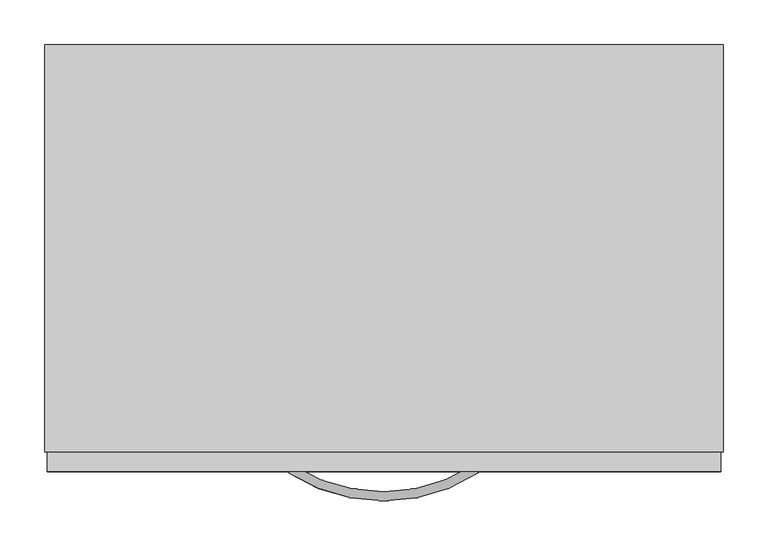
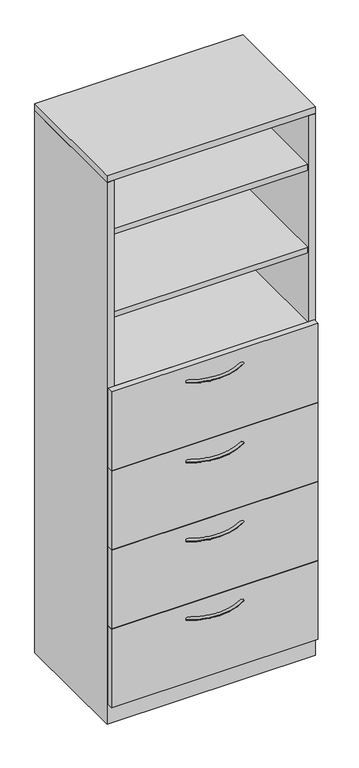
"""IFC4 building model written with IfcOpenShell, lengths in millimetres: furniture geometry, Steelcase - Universal Storage - Cabinet - Combination - Proud Steel : 83 1/2H - Open Cabinet/4 Drawers - 18 7/8D x 30W."""

from ifc_helpers import new_model, si_unit, point, frame, origin, place, context, project, spatial, polyline, circle_curve, ellipse_curve, trimmed, outline, extrude, faceted_brep, source, transform, mapped, element, save
from ifc_brep_helpers import plane_surface, revolved_surface, advanced_brep


def furniture_8e147174(model_context):
    return source(origin(), model_context, "Body", "SolidModel", [
        extrude(outline(polyline([(736.6000242, -25.4000008), (736.6000242, -454.0250121), (25.4000008, -454.0250121), (25.4000008, -25.4000008), (736.6000242, -25.4000008)])), frame((0.0, 0.0, 1273.1750484), z_axis=(0.0, 0.0, 1.0), x_axis=(1.0, 0.0, 0.0)), (0.0, 0.0, 1.0), 22.2249516),
        extrude(outline(polyline([(736.6000242, -25.4000008), (736.6000242, -454.0250121), (25.4000008, -454.0250121), (25.4000008, -25.4000008), (736.6000242, -25.4000008)])), frame((0.0, 0.0, 1562.7350484), z_axis=(0.0, 0.0, 1.0), x_axis=(1.0, 0.0, 0.0)), (0.0, 0.0, 1.0), 22.2249516),
        extrude(outline(polyline([(736.6000242, -25.4000008), (736.6000242, -454.0250121), (25.4000008, -454.0250121), (25.4000008, -25.4000008), (736.6000242, -25.4000008)])), frame((0.0, 0.0, 1882.7750484), z_axis=(0.0, 0.0, 1.0), x_axis=(1.0, 0.0, 0.0)), (0.0, 0.0, 1.0), 22.2249516),
        advanced_brep(
        [(274.4245932, -481.5705994, 1240.6312742), (279.8977519, -473.0108019, 1240.6312742), (486.7315136, -481.1337636, 1240.6312742), (481.2231767, -472.5965612, 1240.6312742)],
        [
            (0, 1, circle_curve(frame((277.1611726, -477.2907007, 1240.6312742), z_axis=(-0.8424997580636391, 0.5386967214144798, 0.0), x_axis=(0.5386967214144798, 0.8424997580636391, 0.0)), 5.08)),
            (1, 0, circle_curve(frame((277.1611726, -477.2907007, 1240.6312742), z_axis=(-0.8424997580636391, 0.5386967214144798, 0.0), x_axis=(0.5386967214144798, 0.8424997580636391, 0.0)), 5.08)),
            (2, 3, circle_curve(frame((483.9773452, -476.8651624, 1240.6312742), z_axis=(0.8402758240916, 0.5421591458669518, 0.0), x_axis=(-0.5421591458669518, 0.8402758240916, 0.0)), 5.08)),
            (3, 2, circle_curve(frame((483.9773452, -476.8651624, 1240.6312742), z_axis=(0.8402758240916, 0.5421591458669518, 0.0), x_axis=(-0.5421591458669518, 0.8402758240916, 0.0)), 5.08)),
            (3, 1, circle_curve(frame((380.2380004, -316.0827352, 1240.6312742), z_axis=(0.0, 0.0, -1.0), x_axis=(-0.5386967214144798, -0.8424997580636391, 0.0)), 186.2648211)),
            (0, 2, circle_curve(frame((380.2380004, -316.0827352, 1240.6312742), z_axis=(0.0, 0.0, 1.0), x_axis=(-0.5386967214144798, -0.8424997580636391, 0.0)), 196.4248211)),
        ],
        [
            plane_surface(frame((277.5794521, -476.6365286, 1241.4250242), z_axis=(-0.8424997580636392, 0.5386967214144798, 0.0), x_axis=(0.0, 0.0, 1.0))),
            plane_surface(frame((483.5563772, -476.2127171, 1241.4250242), z_axis=(0.8402758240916, 0.5421591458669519, 0.0), x_axis=(0.0, 0.0, 1.0))),
            revolved_surface(trimmed(ellipse_curve(frame((277.1611726, -477.2907007, 1240.6312742), z_axis=(-0.8424997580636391, 0.5386967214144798, 0.0), x_axis=(0.5386967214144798, 0.8424997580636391, 0.0)), 5.08, 5.08), [point((274.4245932, -481.5705994, 1240.6312742))], [point((279.8977519, -473.0108019, 1240.6312742))], True, "CARTESIAN"), (380.2380004, -316.0827352, 1241.4250242), (0.0, 0.0, 1.0)),
            revolved_surface(trimmed(ellipse_curve(frame((277.1611726, -477.2907007, 1240.6312742), z_axis=(-0.8424997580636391, 0.5386967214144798, 0.0), x_axis=(0.5386967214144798, 0.8424997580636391, 0.0)), 5.08, 5.08), [point((279.8977519, -473.0108019, 1240.6312742))], [point((274.4245932, -481.5705994, 1240.6312742))], True, "CARTESIAN"), (380.2380004, -316.0827352, 1241.4250242), (0.0, 0.0, 1.0)),
        ],
        [
            (0, [[1, 2]]),
            (1, [[3, 4]]),
            (2, [[5, -1, 6, -4]]),
            (3, [[-6, -2, -5, -3]]),
        ],
    ),
        advanced_brep(
        [(274.4245932, -481.5705994, 323.56425), (279.8977519, -473.0108019, 323.56425), (486.7315136, -481.1337636, 323.56425), (481.2231767, -472.5965612, 323.56425)],
        [
            (0, 1, circle_curve(frame((277.1611726, -477.2907007, 323.56425), z_axis=(-0.8424997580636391, 0.5386967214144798, 0.0), x_axis=(0.5386967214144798, 0.8424997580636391, 0.0)), 5.08)),
            (1, 0, circle_curve(frame((277.1611726, -477.2907007, 323.56425), z_axis=(-0.8424997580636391, 0.5386967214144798, 0.0), x_axis=(0.5386967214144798, 0.8424997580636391, 0.0)), 5.08)),
            (2, 3, circle_curve(frame((483.9773452, -476.8651624, 323.56425), z_axis=(0.8402758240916, 0.5421591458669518, 0.0), x_axis=(-0.5421591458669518, 0.8402758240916, 0.0)), 5.08)),
            (3, 2, circle_curve(frame((483.9773452, -476.8651624, 323.56425), z_axis=(0.8402758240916, 0.5421591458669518, 0.0), x_axis=(-0.5421591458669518, 0.8402758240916, 0.0)), 5.08)),
            (3, 1, circle_curve(frame((380.2380004, -316.0827352, 323.56425), z_axis=(0.0, 0.0, -1.0), x_axis=(-0.5386967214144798, -0.8424997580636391, 0.0)), 186.2648211)),
            (0, 2, circle_curve(frame((380.2380004, -316.0827352, 323.56425), z_axis=(0.0, 0.0, 1.0), x_axis=(-0.5386967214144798, -0.8424997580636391, 0.0)), 196.4248211)),
        ],
        [
            plane_surface(frame((277.5794521, -476.6365286, 324.358), z_axis=(-0.8424997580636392, 0.5386967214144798, 0.0), x_axis=(0.0, 0.0, 1.0))),
            plane_surface(frame((483.5563772, -476.2127171, 324.358), z_axis=(0.8402758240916, 0.5421591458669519, 0.0), x_axis=(0.0, 0.0, 1.0))),
            revolved_surface(trimmed(ellipse_curve(frame((277.1611726, -477.2907007, 323.56425), z_axis=(-0.8424997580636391, 0.5386967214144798, 0.0), x_axis=(0.5386967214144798, 0.8424997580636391, 0.0)), 5.08, 5.08), [point((274.4245932, -481.5705994, 323.56425))], [point((279.8977519, -473.0108019, 323.56425))], True, "CARTESIAN"), (380.2380004, -316.0827352, 324.358), (0.0, 0.0, 1.0)),
            revolved_surface(trimmed(ellipse_curve(frame((277.1611726, -477.2907007, 323.56425), z_axis=(-0.8424997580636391, 0.5386967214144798, 0.0), x_axis=(0.5386967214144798, 0.8424997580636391, 0.0)), 5.08, 5.08), [point((279.8977519, -473.0108019, 323.56425))], [point((274.4245932, -481.5705994, 323.56425))], True, "CARTESIAN"), (380.2380004, -316.0827352, 324.358), (0.0, 0.0, 1.0)),
        ],
        [
            (0, [[1, 2]]),
            (1, [[3, 4]]),
            (2, [[5, -1, 6, -4]]),
            (3, [[-6, -2, -5, -3]]),
        ],
    ),
        advanced_brep(
        [(274.4245932, -481.5705994, 627.85625), (279.8977519, -473.0108019, 627.85625), (486.7315136, -481.1337636, 627.85625), (481.2231767, -472.5965612, 627.85625)],
        [
            (0, 1, circle_curve(frame((277.1611726, -477.2907007, 627.85625), z_axis=(-0.8424997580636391, 0.5386967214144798, 0.0), x_axis=(0.5386967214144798, 0.8424997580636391, 0.0)), 5.08)),
            (1, 0, circle_curve(frame((277.1611726, -477.2907007, 627.85625), z_axis=(-0.8424997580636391, 0.5386967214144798, 0.0), x_axis=(0.5386967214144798, 0.8424997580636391, 0.0)), 5.08)),
            (2, 3, circle_curve(frame((483.9773452, -476.8651624, 627.85625), z_axis=(0.8402758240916, 0.5421591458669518, 0.0), x_axis=(-0.5421591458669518, 0.8402758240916, 0.0)), 5.08)),
            (3, 2, circle_curve(frame((483.9773452, -476.8651624, 627.85625), z_axis=(0.8402758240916, 0.5421591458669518, 0.0), x_axis=(-0.5421591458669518, 0.8402758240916, 0.0)), 5.08)),
            (3, 1, circle_curve(frame((380.2380004, -316.0827352, 627.85625), z_axis=(0.0, 0.0, -1.0), x_axis=(-0.5386967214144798, -0.8424997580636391, 0.0)), 186.2648211)),
            (0, 2, circle_curve(frame((380.2380004, -316.0827352, 627.85625), z_axis=(0.0, 0.0, 1.0), x_axis=(-0.5386967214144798, -0.8424997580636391, 0.0)), 196.4248211)),
        ],
        [
            plane_surface(frame((277.5794521, -476.6365286, 628.65), z_axis=(-0.8424997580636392, 0.5386967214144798, 0.0), x_axis=(0.0, 0.0, 1.0))),
            plane_surface(frame((483.5563772, -476.2127171, 628.65), z_axis=(0.8402758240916, 0.5421591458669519, 0.0), x_axis=(0.0, 0.0, 1.0))),
            revolved_surface(trimmed(ellipse_curve(frame((277.1611726, -477.2907007, 627.85625), z_axis=(-0.8424997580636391, 0.5386967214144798, 0.0), x_axis=(0.5386967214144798, 0.8424997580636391, 0.0)), 5.08, 5.08), [point((274.4245932, -481.5705994, 627.85625))], [point((279.8977519, -473.0108019, 627.85625))], True, "CARTESIAN"), (380.2380004, -316.0827352, 628.65), (0.0, 0.0, 1.0)),
            revolved_surface(trimmed(ellipse_curve(frame((277.1611726, -477.2907007, 627.85625), z_axis=(-0.8424997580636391, 0.5386967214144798, 0.0), x_axis=(0.5386967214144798, 0.8424997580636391, 0.0)), 5.08, 5.08), [point((279.8977519, -473.0108019, 627.85625))], [point((274.4245932, -481.5705994, 627.85625))], True, "CARTESIAN"), (380.2380004, -316.0827352, 628.65), (0.0, 0.0, 1.0)),
        ],
        [
            (0, [[1, 2]]),
            (1, [[3, 4]]),
            (2, [[5, -1, 6, -4]]),
            (3, [[-6, -2, -5, -3]]),
        ],
    ),
        extrude(outline(polyline([(758.8225413, -479.552), (3.1725353, -479.552), (3.1725353, -457.3261219), (758.8225413, -457.3261219), (758.8225413, -479.552)])), frame((0.0, 0.0, 992.1240349), z_axis=(0.0, 0.0, 1.0), x_axis=(1.0, 0.0, 0.0)), (0.0, 0.0, 1.0), 306.4509893),
        extrude(outline(polyline([(758.8225413, -479.552), (3.1725353, -479.552), (3.1725353, -457.3261219), (758.8225413, -457.3261219), (758.8225413, -479.552)])), frame((0.0, 0.0, 687.3240349), z_axis=(0.0, 0.0, 1.0), x_axis=(1.0, 0.0, 0.0)), (0.0, 0.0, 1.0), 303.2759651),
        advanced_brep(
        [(274.4245932, -481.5705994, 932.65625), (279.8977519, -473.0108019, 932.65625), (486.7315136, -481.1337636, 932.65625), (481.2231767, -472.5965612, 932.65625)],
        [
            (0, 1, circle_curve(frame((277.1611726, -477.2907007, 932.65625), z_axis=(-0.8424997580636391, 0.5386967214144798, 0.0), x_axis=(0.5386967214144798, 0.8424997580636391, 0.0)), 5.08)),
            (1, 0, circle_curve(frame((277.1611726, -477.2907007, 932.65625), z_axis=(-0.8424997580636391, 0.5386967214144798, 0.0), x_axis=(0.5386967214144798, 0.8424997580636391, 0.0)), 5.08)),
            (2, 3, circle_curve(frame((483.9773452, -476.8651624, 932.65625), z_axis=(0.8402758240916, 0.5421591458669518, 0.0), x_axis=(-0.5421591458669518, 0.8402758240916, 0.0)), 5.08)),
            (3, 2, circle_curve(frame((483.9773452, -476.8651624, 932.65625), z_axis=(0.8402758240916, 0.5421591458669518, 0.0), x_axis=(-0.5421591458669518, 0.8402758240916, 0.0)), 5.08)),
            (3, 1, circle_curve(frame((380.2380004, -316.0827352, 932.65625), z_axis=(0.0, 0.0, -1.0), x_axis=(-0.5386967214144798, -0.8424997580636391, 0.0)), 186.2648211)),
            (0, 2, circle_curve(frame((380.2380004, -316.0827352, 932.65625), z_axis=(0.0, 0.0, 1.0), x_axis=(-0.5386967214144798, -0.8424997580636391, 0.0)), 196.4248211)),
        ],
        [
            plane_surface(frame((277.5794521, -476.6365286, 933.45), z_axis=(-0.8424997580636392, 0.5386967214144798, 0.0), x_axis=(0.0, 0.0, 1.0))),
            plane_surface(frame((483.5563772, -476.2127171, 933.45), z_axis=(0.8402758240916, 0.5421591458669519, 0.0), x_axis=(0.0, 0.0, 1.0))),
            revolved_surface(trimmed(ellipse_curve(frame((277.1611726, -477.2907007, 932.65625), z_axis=(-0.8424997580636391, 0.5386967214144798, 0.0), x_axis=(0.5386967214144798, 0.8424997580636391, 0.0)), 5.08, 5.08), [point((274.4245932, -481.5705994, 932.65625))], [point((279.8977519, -473.0108019, 932.65625))], True, "CARTESIAN"), (380.2380004, -316.0827352, 933.45), (0.0, 0.0, 1.0)),
            revolved_surface(trimmed(ellipse_curve(frame((277.1611726, -477.2907007, 932.65625), z_axis=(-0.8424997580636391, 0.5386967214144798, 0.0), x_axis=(0.5386967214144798, 0.8424997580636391, 0.0)), 5.08, 5.08), [point((279.8977519, -473.0108019, 932.65625))], [point((274.4245932, -481.5705994, 932.65625))], True, "CARTESIAN"), (380.2380004, -316.0827352, 933.45), (0.0, 0.0, 1.0)),
        ],
        [
            (0, [[1, 2]]),
            (1, [[3, 4]]),
            (2, [[5, -1, 6, -4]]),
            (3, [[-6, -2, -5, -3]]),
        ],
    ),
        faceted_brep([(25.4000008, -457.3261219, 76.2), (736.6000242, -457.3261219, 76.2), (736.6000242, -25.4000008, 76.2), (25.4000008, -25.4000008, 76.2), (762.0, 0.0, 0.0), (762.0, -457.3261219, 0.0), (0.0, -457.3261219, 0.0), (0.0, 0.0, 0.0), (0.0, 0.0, 2093.976), (762.0, 0.0, 2093.976), (0.0, -457.3261219, 2093.976), (762.0, -457.3261219, 2093.976), (736.6000242, -457.3261219, 2093.976), (25.4000008, -457.3261219, 2093.976), (736.6000242, -25.4000008, 2093.976), (25.4000008, -25.4000008, 2093.976)], [[[0, 1, 2, 3]], [[4, 5, 6, 7]], [[4, 7, 8, 9]], [[8, 7, 6, 10]], [[10, 6, 5, 11, 12, 1, 0, 13]], [[11, 5, 4, 9]], [[14, 12, 11, 9, 8, 10, 13, 15]], [[12, 14, 2, 1]], [[15, 13, 0, 3]], [[14, 15, 3, 2]]]),
        extrude(outline(polyline([(758.8225413, -479.552), (3.1725353, -479.552), (3.1725353, -457.3261219), (758.8225413, -457.3261219), (758.8225413, -479.552)])), frame((0.0, 0.0, 77.724), z_axis=(0.0, 0.0, 1.0), x_axis=(1.0, 0.0, 0.0)), (0.0, 0.0, 1.0), 303.276),
        extrude(outline(polyline([(758.8225413, -479.552), (3.1725353, -479.552), (3.1725353, -457.3261219), (758.8225413, -457.3261219), (758.8225413, -479.552)])), frame((0.0, 0.0, 382.524), z_axis=(0.0, 0.0, 1.0), x_axis=(1.0, 0.0, 0.0)), (0.0, 0.0, 1.0), 303.276),
        extrude(outline(polyline([(762.0, 0.0), (762.0, -457.3261219), (0.0, -457.3261219), (0.0, 0.0), (762.0, 0.0)])), frame((0.0, 0.0, 2095.4999516), z_axis=(0.0, 0.0, 1.0), x_axis=(1.0, 0.0, 0.0)), (0.0, 0.0, 1.0), 25.4000484),
    ])


if __name__ == "__main__":
    model = new_model("IFC4")
    model_context = context("Model", 3, world=origin())
    ifc_project = project(units=[si_unit("LENGTHUNIT", "METRE", prefix="MILLI")], contexts=[model_context])
    site = spatial("IfcSite", under=ifc_project)
    building = spatial("IfcBuilding", under=site)
    placement = place(None, origin())
    furniture_shape = furniture_8e147174(model_context)
    element("IfcFurniture", 1, ObjectType="Steelcase - Universal Storage - Cabinet - Combination - Proud Steel : 83 1/2H - Open Cabinet/4 Drawers - 18 7/8D x 30W", at=placement, inside=building, context=model_context, shape_type="MappedRepresentation", body=[
        mapped(furniture_shape, transform((0.0, 0.0, 0.0), x_axis=(1.0, 0.0, 0.0), y_axis=(0.0, 1.0, 0.0), z_axis=(0.0, 0.0, 1.0))),
    ])
    save(model, "model.ifc")
